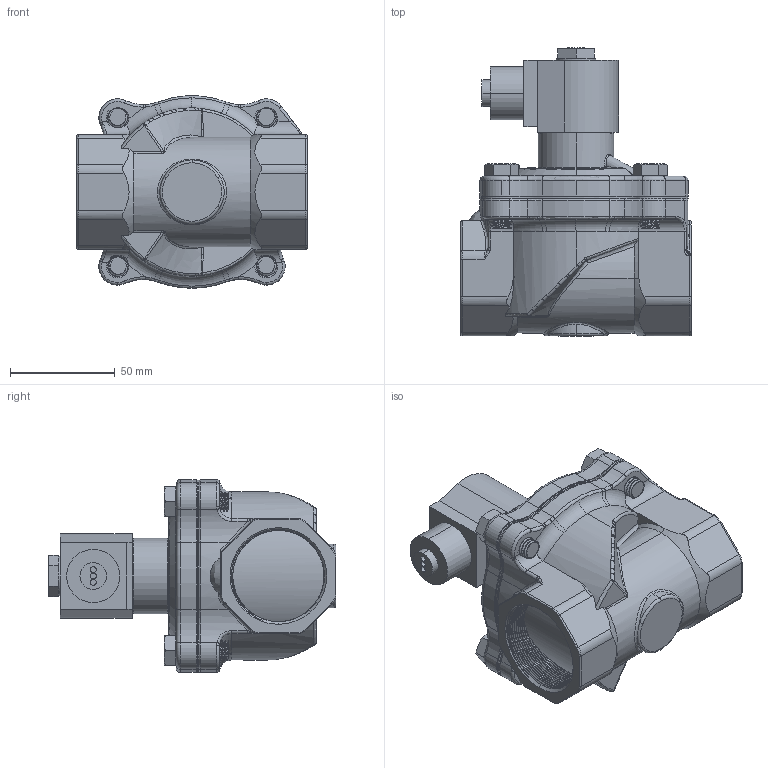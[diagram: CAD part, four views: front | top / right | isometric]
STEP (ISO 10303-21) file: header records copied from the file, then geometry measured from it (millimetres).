
FILE_DESCRIPTION (( 'STEP AP203' ), '1' );
FILE_NAME ('S211G_G.STEP', '2022-07-25T21:20:47', ( '' ), ( '' ), 'SwSTEP 2.0', 'SolidWorks 2022', '' );
FILE_SCHEMA (( 'CONFIG_CONTROL_DESIGN' ));
Length unit declared in the file: inch
Products named in the file (1): S211G_G
Bounding box: 109.98 x 137.55 x 92 mm (x, y, z)
Volume: 535497.9 mm3; surface area: 64524.6 mm2
Topology: 1 solids, 4 shells, 1121 faces, 3011 edges, 1919 vertices
Faces by surface type: cylinder 388, bspline 319, plane 239, torus 130, cone 32, sphere 13
Entity records: 107751 total; most frequent: CARTESIAN_POINT 83349, ORIENTED_EDGE 6004, DIRECTION 4062, EDGE_CURVE 3002, VERTEX_POINT 1919, AXIS2_PLACEMENT_3D 1566, EDGE_LOOP 1165, FACE_OUTER_BOUND 1121
